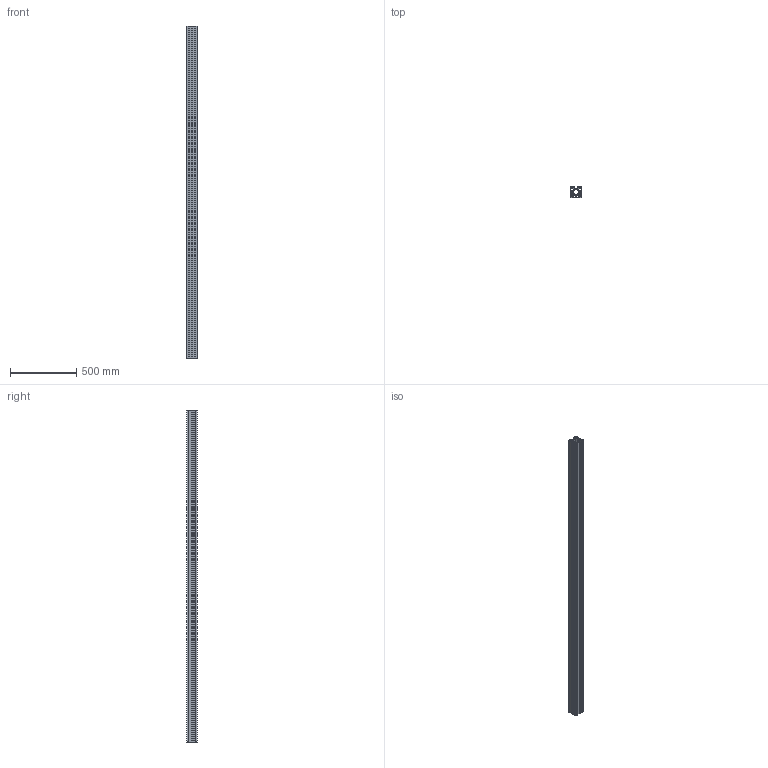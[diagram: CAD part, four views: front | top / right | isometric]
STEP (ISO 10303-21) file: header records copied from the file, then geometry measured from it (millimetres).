
FILE_DESCRIPTION (( 'STEP AP203' ), '1' );
FILE_NAME ('_-_MLF 4 2498 mm lang.step', '2005-09-01T12:46:25', ( ' ' ), ( ' ' ), 'SwSTEP 2.0', 'SolidWorks 2005187', '' );
FILE_SCHEMA (( 'CONFIG_CONTROL_DESIGN' ));
Length unit declared in the file: millimetre
Products named in the file (1): _-_MLF 4  2498 mm lang
Bounding box: 87.58 x 80 x 2498 mm (x, y, z)
Volume: 5755667.2 mm3; surface area: 3086251.8 mm2
Topology: 1 solids, 1 shells, 248 faces, 762 edges, 500 vertices
Faces by surface type: plane 174, cylinder 74
Entity records: 8575 total; most frequent: ORIENTED_EDGE 1524, CARTESIAN_POINT 1511, DIRECTION 1408, EDGE_CURVE 762, VECTOR 614, LINE 614, VERTEX_POINT 500, AXIS2_PLACEMENT_3D 397
